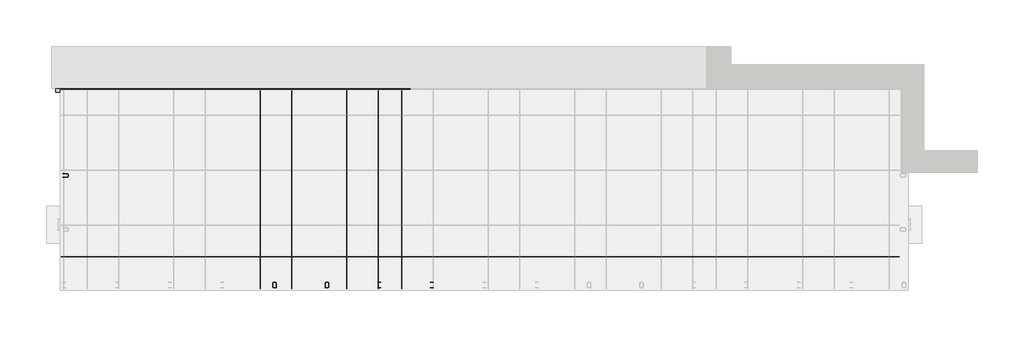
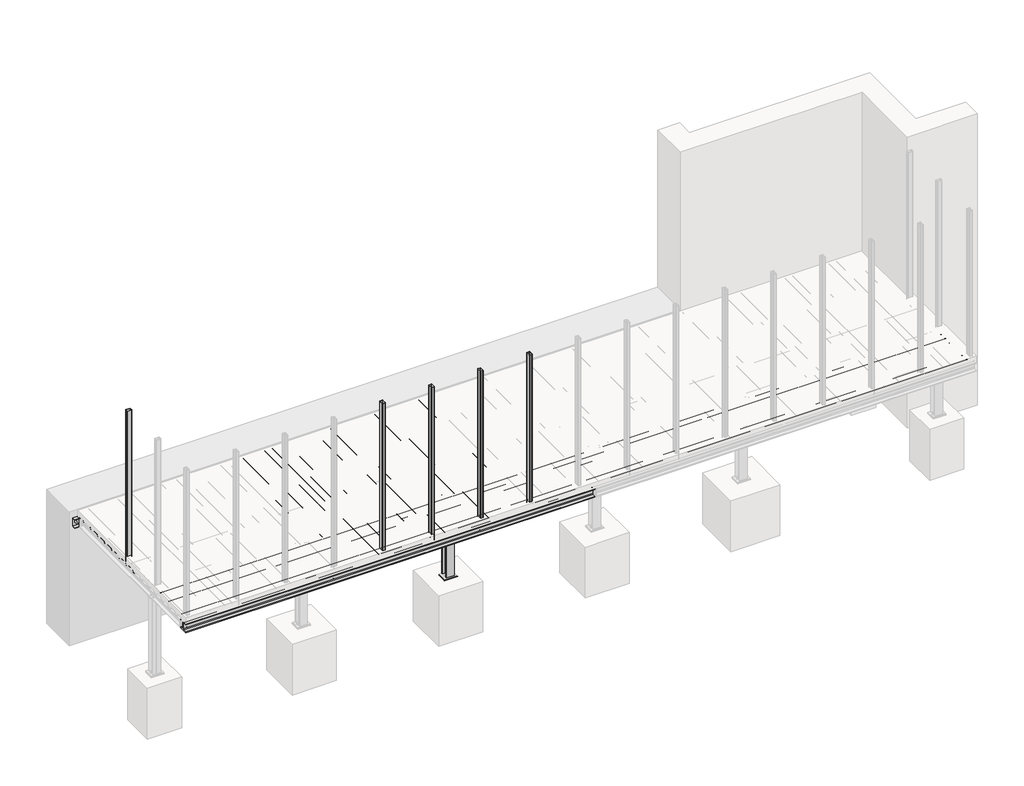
# One storey, part 2 of 36: 42 beams, 6 columns, 1 plate.
"""IFC4 building model written with IfcOpenShell, lengths in millimetres."""

from ifc_helpers import new_model, si_unit, point, frame, frame_2d, origin, place, context, project, spatial, polyline, circle_curve, trimmed, segment, composite_curve, outline, extrude, faceted_brep, element, save

model = new_model("IFC4")

# Units and contexts
model_context = context("Model", 3, world=origin())
ifc_project = project(units=[si_unit("LENGTHUNIT", "METRE", prefix="MILLI")], contexts=[model_context])

# Site, building, storey
site = spatial("IfcSite", under=ifc_project)
building = spatial("IfcBuilding", under=site)
storey = spatial("IfcBuildingStorey", under=building, Name="Základy", Elevation=-1200.0)

# Beams
placement = place(None, origin())
element("IfcBeam", 1, ObjectType="D8", at=placement, inside=storey, context=model_context, shape_type="SweptSolid", body=[
    extrude(outline(composite_curve([segment(trimmed(circle_curve(frame_2d((949.9975821, -57.0)), 4.0), [point((945.9975821, -57.0))], [point((953.9975821, -57.0))], False, "CARTESIAN"), True, "CONTINUOUS"), segment(trimmed(circle_curve(frame_2d((949.9975821, -57.0)), 4.0), [point((953.9975821, -57.0))], [point((945.9975821, -57.0))], False, "CARTESIAN"), True, "CONTINUOUS")], self_intersect=False)), frame((-15.0, 0.0, 0.0), z_axis=(1.0, 0.0, 0.0), x_axis=(0.0, 1.0, 0.0)), (0.0, 0.0, 1.0), 15985.0),
])
element("IfcBeam", 2, ObjectType="D8", at=placement, inside=storey, context=model_context, shape_type="SweptSolid", body=[
    extrude(outline(composite_curve([segment(trimmed(circle_curve(frame_2d((799.9975821, -57.0)), 4.0), [point((795.9975821, -57.0))], [point((803.9975821, -57.0))], False, "CARTESIAN"), True, "CONTINUOUS"), segment(trimmed(circle_curve(frame_2d((799.9975821, -57.0)), 4.0), [point((803.9975821, -57.0))], [point((795.9975821, -57.0))], False, "CARTESIAN"), True, "CONTINUOUS")], self_intersect=False)), frame((-15.0, 0.0, 0.0), z_axis=(1.0, 0.0, 0.0), x_axis=(0.0, 1.0, 0.0)), (0.0, 0.0, 1.0), 15985.0),
])
element("IfcBeam", 3, ObjectType="D8", at=placement, inside=storey, context=model_context, shape_type="SweptSolid", body=[
    extrude(outline(composite_curve([segment(trimmed(circle_curve(frame_2d((649.9975821, -57.0)), 4.0), [point((645.9975821, -57.0))], [point((653.9975821, -57.0))], False, "CARTESIAN"), True, "CONTINUOUS"), segment(trimmed(circle_curve(frame_2d((649.9975821, -57.0)), 4.0), [point((653.9975821, -57.0))], [point((645.9975821, -57.0))], False, "CARTESIAN"), True, "CONTINUOUS")], self_intersect=False)), frame((-15.0, 0.0, 0.0), z_axis=(1.0, 0.0, 0.0), x_axis=(0.0, 1.0, 0.0)), (0.0, 0.0, 1.0), 15985.0),
])
element("IfcBeam", 4, ObjectType="D8", at=placement, inside=storey, context=model_context, shape_type="SweptSolid", body=[
    extrude(outline(composite_curve([segment(trimmed(circle_curve(frame_2d((499.9975821, -57.0)), 4.0), [point((495.9975821, -57.0))], [point((503.9975821, -57.0))], False, "CARTESIAN"), True, "CONTINUOUS"), segment(trimmed(circle_curve(frame_2d((499.9975821, -57.0)), 4.0), [point((503.9975821, -57.0))], [point((495.9975821, -57.0))], False, "CARTESIAN"), True, "CONTINUOUS")], self_intersect=False)), frame((-15.0, 0.0, 0.0), z_axis=(1.0, 0.0, 0.0), x_axis=(0.0, 1.0, 0.0)), (0.0, 0.0, 1.0), 15985.0),
])
element("IfcBeam", 5, ObjectType="D8", at=placement, inside=storey, context=model_context, shape_type="SweptSolid", body=[
    extrude(outline(composite_curve([segment(trimmed(circle_curve(frame_2d((349.9975821, -57.0)), 4.0), [point((345.9975821, -57.0))], [point((353.9975821, -57.0))], False, "CARTESIAN"), True, "CONTINUOUS"), segment(trimmed(circle_curve(frame_2d((349.9975821, -57.0)), 4.0), [point((353.9975821, -57.0))], [point((345.9975821, -57.0))], False, "CARTESIAN"), True, "CONTINUOUS")], self_intersect=False)), frame((-15.0, 0.0, 0.0), z_axis=(1.0, 0.0, 0.0), x_axis=(0.0, 1.0, 0.0)), (0.0, 0.0, 1.0), 15985.0),
])
element("IfcBeam", 6, ObjectType="D8", at=placement, inside=storey, context=model_context, shape_type="SweptSolid", body=[
    extrude(outline(composite_curve([segment(trimmed(circle_curve(frame_2d((199.9975821, -57.0)), 4.0), [point((195.9975821, -57.0))], [point((203.9975821, -57.0))], False, "CARTESIAN"), True, "CONTINUOUS"), segment(trimmed(circle_curve(frame_2d((199.9975821, -57.0)), 4.0), [point((203.9975821, -57.0))], [point((195.9975821, -57.0))], False, "CARTESIAN"), True, "CONTINUOUS")], self_intersect=False)), frame((-15.0, 0.0, 0.0), z_axis=(1.0, 0.0, 0.0), x_axis=(0.0, 1.0, 0.0)), (0.0, 0.0, 1.0), 15985.0),
])
element("IfcBeam", 7, ObjectType="D8", at=placement, inside=storey, context=model_context, shape_type="SweptSolid", body=[
    extrude(outline(composite_curve([segment(trimmed(circle_curve(frame_2d((49.9975821, -57.0)), 4.0), [point((45.9975821, -57.0))], [point((53.9975821, -57.0))], False, "CARTESIAN"), True, "CONTINUOUS"), segment(trimmed(circle_curve(frame_2d((49.9975821, -57.0)), 4.0), [point((53.9975821, -57.0))], [point((45.9975821, -57.0))], False, "CARTESIAN"), True, "CONTINUOUS")], self_intersect=False)), frame((-15.0, 0.0, 0.0), z_axis=(1.0, 0.0, 0.0), x_axis=(0.0, 1.0, 0.0)), (0.0, 0.0, 1.0), 15985.0),
])
element("IfcBeam", 8, ObjectType="D8", at=placement, inside=storey, context=model_context, shape_type="SweptSolid", body=[
    extrude(outline(composite_curve([segment(trimmed(circle_curve(frame_2d((-49.0, 3177.5)), 4.0), [point((-49.0, 3173.5))], [point((-49.0, 3181.5))], False, "CARTESIAN"), True, "CONTINUOUS"), segment(trimmed(circle_curve(frame_2d((-49.0, 3177.5)), 4.0), [point((-49.0, 3181.5))], [point((-49.0, 3173.5))], False, "CARTESIAN"), True, "CONTINUOUS")], self_intersect=False)), frame((0.0, 35.0, 0.0), z_axis=(0.0, 1.0, 0.0), x_axis=(0.0, 0.0, 1.0)), (0.0, 0.0, 1.0), 3780.0),
])
element("IfcBeam", 9, ObjectType="D8", at=placement, inside=storey, context=model_context, shape_type="SweptSolid", body=[
    extrude(outline(composite_curve([segment(trimmed(circle_curve(frame_2d((-49.0, 3327.5)), 4.0), [point((-49.0, 3323.5))], [point((-49.0, 3331.5))], False, "CARTESIAN"), True, "CONTINUOUS"), segment(trimmed(circle_curve(frame_2d((-49.0, 3327.5)), 4.0), [point((-49.0, 3331.5))], [point((-49.0, 3323.5))], False, "CARTESIAN"), True, "CONTINUOUS")], self_intersect=False)), frame((0.0, 35.0, 0.0), z_axis=(0.0, 1.0, 0.0), x_axis=(0.0, 0.0, 1.0)), (0.0, 0.0, 1.0), 3780.0),
])
element("IfcBeam", 10, ObjectType="D8", at=placement, inside=storey, context=model_context, shape_type="SweptSolid", body=[
    extrude(outline(composite_curve([segment(trimmed(circle_curve(frame_2d((-49.0, 3477.5)), 4.0), [point((-49.0, 3473.5))], [point((-49.0, 3481.5))], False, "CARTESIAN"), True, "CONTINUOUS"), segment(trimmed(circle_curve(frame_2d((-49.0, 3477.5)), 4.0), [point((-49.0, 3481.5))], [point((-49.0, 3473.5))], False, "CARTESIAN"), True, "CONTINUOUS")], self_intersect=False)), frame((0.0, 35.0, 0.0), z_axis=(0.0, 1.0, 0.0), x_axis=(0.0, 0.0, 1.0)), (0.0, 0.0, 1.0), 3780.0),
])
element("IfcBeam", 11, ObjectType="D8", at=placement, inside=storey, context=model_context, shape_type="SweptSolid", body=[
    extrude(outline(composite_curve([segment(trimmed(circle_curve(frame_2d((-49.0, 3627.5)), 4.0), [point((-49.0, 3623.5))], [point((-49.0, 3631.5))], False, "CARTESIAN"), True, "CONTINUOUS"), segment(trimmed(circle_curve(frame_2d((-49.0, 3627.5)), 4.0), [point((-49.0, 3631.5))], [point((-49.0, 3623.5))], False, "CARTESIAN"), True, "CONTINUOUS")], self_intersect=False)), frame((0.0, 35.0, 0.0), z_axis=(0.0, 1.0, 0.0), x_axis=(0.0, 0.0, 1.0)), (0.0, 0.0, 1.0), 3780.0),
])
element("IfcBeam", 12, ObjectType="D8", at=placement, inside=storey, context=model_context, shape_type="SweptSolid", body=[
    extrude(outline(composite_curve([segment(trimmed(circle_curve(frame_2d((-49.0, 3777.5)), 4.0), [point((-49.0, 3773.5))], [point((-49.0, 3781.5))], False, "CARTESIAN"), True, "CONTINUOUS"), segment(trimmed(circle_curve(frame_2d((-49.0, 3777.5)), 4.0), [point((-49.0, 3781.5))], [point((-49.0, 3773.5))], False, "CARTESIAN"), True, "CONTINUOUS")], self_intersect=False)), frame((0.0, 35.0, 0.0), z_axis=(0.0, 1.0, 0.0), x_axis=(0.0, 0.0, 1.0)), (0.0, 0.0, 1.0), 3780.0),
])
element("IfcBeam", 13, ObjectType="D8", at=placement, inside=storey, context=model_context, shape_type="SweptSolid", body=[
    extrude(outline(composite_curve([segment(trimmed(circle_curve(frame_2d((-49.0, 3927.5)), 4.0), [point((-49.0, 3923.5))], [point((-49.0, 3931.5))], False, "CARTESIAN"), True, "CONTINUOUS"), segment(trimmed(circle_curve(frame_2d((-49.0, 3927.5)), 4.0), [point((-49.0, 3931.5))], [point((-49.0, 3923.5))], False, "CARTESIAN"), True, "CONTINUOUS")], self_intersect=False)), frame((0.0, 35.0, 0.0), z_axis=(0.0, 1.0, 0.0), x_axis=(0.0, 0.0, 1.0)), (0.0, 0.0, 1.0), 3780.0),
])
element("IfcBeam", 14, ObjectType="D8", at=placement, inside=storey, context=model_context, shape_type="SweptSolid", body=[
    extrude(outline(composite_curve([segment(trimmed(circle_curve(frame_2d((-49.0, 4077.5)), 4.0), [point((-49.0, 4073.5))], [point((-49.0, 4081.5))], False, "CARTESIAN"), True, "CONTINUOUS"), segment(trimmed(circle_curve(frame_2d((-49.0, 4077.5)), 4.0), [point((-49.0, 4081.5))], [point((-49.0, 4073.5))], False, "CARTESIAN"), True, "CONTINUOUS")], self_intersect=False)), frame((0.0, 35.0, 0.0), z_axis=(0.0, 1.0, 0.0), x_axis=(0.0, 0.0, 1.0)), (0.0, 0.0, 1.0), 3780.0),
])
element("IfcBeam", 15, ObjectType="D8", at=placement, inside=storey, context=model_context, shape_type="SweptSolid", body=[
    extrude(outline(composite_curve([segment(trimmed(circle_curve(frame_2d((-49.0, 4227.5)), 4.0), [point((-49.0, 4223.5))], [point((-49.0, 4231.5))], False, "CARTESIAN"), True, "CONTINUOUS"), segment(trimmed(circle_curve(frame_2d((-49.0, 4227.5)), 4.0), [point((-49.0, 4231.5))], [point((-49.0, 4223.5))], False, "CARTESIAN"), True, "CONTINUOUS")], self_intersect=False)), frame((0.0, 35.0, 0.0), z_axis=(0.0, 1.0, 0.0), x_axis=(0.0, 0.0, 1.0)), (0.0, 0.0, 1.0), 3780.0),
])
element("IfcBeam", 16, ObjectType="D8", at=placement, inside=storey, context=model_context, shape_type="SweptSolid", body=[
    extrude(outline(composite_curve([segment(trimmed(circle_curve(frame_2d((-49.0, 4377.5)), 4.0), [point((-49.0, 4373.5))], [point((-49.0, 4381.5))], False, "CARTESIAN"), True, "CONTINUOUS"), segment(trimmed(circle_curve(frame_2d((-49.0, 4377.5)), 4.0), [point((-49.0, 4381.5))], [point((-49.0, 4373.5))], False, "CARTESIAN"), True, "CONTINUOUS")], self_intersect=False)), frame((0.0, 35.0, 0.0), z_axis=(0.0, 1.0, 0.0), x_axis=(0.0, 0.0, 1.0)), (0.0, 0.0, 1.0), 3780.0),
])
element("IfcBeam", 17, ObjectType="D8", at=placement, inside=storey, context=model_context, shape_type="SweptSolid", body=[
    extrude(outline(composite_curve([segment(trimmed(circle_curve(frame_2d((-49.0, 4527.5)), 4.0), [point((-49.0, 4523.5))], [point((-49.0, 4531.5))], False, "CARTESIAN"), True, "CONTINUOUS"), segment(trimmed(circle_curve(frame_2d((-49.0, 4527.5)), 4.0), [point((-49.0, 4531.5))], [point((-49.0, 4523.5))], False, "CARTESIAN"), True, "CONTINUOUS")], self_intersect=False)), frame((0.0, 35.0, 0.0), z_axis=(0.0, 1.0, 0.0), x_axis=(0.0, 0.0, 1.0)), (0.0, 0.0, 1.0), 3780.0),
])
element("IfcBeam", 18, ObjectType="D8", at=placement, inside=storey, context=model_context, shape_type="SweptSolid", body=[
    extrude(outline(composite_curve([segment(trimmed(circle_curve(frame_2d((-49.0, 4677.5)), 4.0), [point((-49.0, 4673.5))], [point((-49.0, 4681.5))], False, "CARTESIAN"), True, "CONTINUOUS"), segment(trimmed(circle_curve(frame_2d((-49.0, 4677.5)), 4.0), [point((-49.0, 4681.5))], [point((-49.0, 4673.5))], False, "CARTESIAN"), True, "CONTINUOUS")], self_intersect=False)), frame((0.0, 35.0, 0.0), z_axis=(0.0, 1.0, 0.0), x_axis=(0.0, 0.0, 1.0)), (0.0, 0.0, 1.0), 3780.0),
])
element("IfcBeam", 19, ObjectType="D8", at=placement, inside=storey, context=model_context, shape_type="SweptSolid", body=[
    extrude(outline(composite_curve([segment(trimmed(circle_curve(frame_2d((-49.0, 4827.5)), 4.0), [point((-49.0, 4823.5))], [point((-49.0, 4831.5))], False, "CARTESIAN"), True, "CONTINUOUS"), segment(trimmed(circle_curve(frame_2d((-49.0, 4827.5)), 4.0), [point((-49.0, 4831.5))], [point((-49.0, 4823.5))], False, "CARTESIAN"), True, "CONTINUOUS")], self_intersect=False)), frame((0.0, 35.0, 0.0), z_axis=(0.0, 1.0, 0.0), x_axis=(0.0, 0.0, 1.0)), (0.0, 0.0, 1.0), 3780.0),
])
element("IfcBeam", 20, ObjectType="D8", at=placement, inside=storey, context=model_context, shape_type="SweptSolid", body=[
    extrude(outline(composite_curve([segment(trimmed(circle_curve(frame_2d((-49.0, 4977.5)), 4.0), [point((-49.0, 4973.5))], [point((-49.0, 4981.5))], False, "CARTESIAN"), True, "CONTINUOUS"), segment(trimmed(circle_curve(frame_2d((-49.0, 4977.5)), 4.0), [point((-49.0, 4981.5))], [point((-49.0, 4973.5))], False, "CARTESIAN"), True, "CONTINUOUS")], self_intersect=False)), frame((0.0, 35.0, 0.0), z_axis=(0.0, 1.0, 0.0), x_axis=(0.0, 0.0, 1.0)), (0.0, 0.0, 1.0), 3780.0),
])
element("IfcBeam", 21, ObjectType="D8", at=placement, inside=storey, context=model_context, shape_type="SweptSolid", body=[
    extrude(outline(composite_curve([segment(trimmed(circle_curve(frame_2d((-49.0, 5127.5)), 4.0), [point((-49.0, 5123.5))], [point((-49.0, 5131.5))], False, "CARTESIAN"), True, "CONTINUOUS"), segment(trimmed(circle_curve(frame_2d((-49.0, 5127.5)), 4.0), [point((-49.0, 5131.5))], [point((-49.0, 5123.5))], False, "CARTESIAN"), True, "CONTINUOUS")], self_intersect=False)), frame((0.0, 35.0, 0.0), z_axis=(0.0, 1.0, 0.0), x_axis=(0.0, 0.0, 1.0)), (0.0, 0.0, 1.0), 3780.0),
])
element("IfcBeam", 22, ObjectType="D8", at=placement, inside=storey, context=model_context, shape_type="SweptSolid", body=[
    extrude(outline(composite_curve([segment(trimmed(circle_curve(frame_2d((-49.0, 5277.5)), 4.0), [point((-49.0, 5273.5))], [point((-49.0, 5281.5))], False, "CARTESIAN"), True, "CONTINUOUS"), segment(trimmed(circle_curve(frame_2d((-49.0, 5277.5)), 4.0), [point((-49.0, 5281.5))], [point((-49.0, 5273.5))], False, "CARTESIAN"), True, "CONTINUOUS")], self_intersect=False)), frame((0.0, 35.0, 0.0), z_axis=(0.0, 1.0, 0.0), x_axis=(0.0, 0.0, 1.0)), (0.0, 0.0, 1.0), 3780.0),
])
element("IfcBeam", 23, ObjectType="D8", at=placement, inside=storey, context=model_context, shape_type="SweptSolid", body=[
    extrude(outline(composite_curve([segment(trimmed(circle_curve(frame_2d((-49.0, 5427.5)), 4.0), [point((-49.0, 5423.5))], [point((-49.0, 5431.5))], False, "CARTESIAN"), True, "CONTINUOUS"), segment(trimmed(circle_curve(frame_2d((-49.0, 5427.5)), 4.0), [point((-49.0, 5431.5))], [point((-49.0, 5423.5))], False, "CARTESIAN"), True, "CONTINUOUS")], self_intersect=False)), frame((0.0, 35.0, 0.0), z_axis=(0.0, 1.0, 0.0), x_axis=(0.0, 0.0, 1.0)), (0.0, 0.0, 1.0), 3780.0),
])
element("IfcBeam", 24, ObjectType="D8", at=placement, inside=storey, context=model_context, shape_type="SweptSolid", body=[
    extrude(outline(composite_curve([segment(trimmed(circle_curve(frame_2d((-49.0, 5577.5)), 4.0), [point((-49.0, 5573.5))], [point((-49.0, 5581.5))], False, "CARTESIAN"), True, "CONTINUOUS"), segment(trimmed(circle_curve(frame_2d((-49.0, 5577.5)), 4.0), [point((-49.0, 5581.5))], [point((-49.0, 5573.5))], False, "CARTESIAN"), True, "CONTINUOUS")], self_intersect=False)), frame((0.0, 35.0, 0.0), z_axis=(0.0, 1.0, 0.0), x_axis=(0.0, 0.0, 1.0)), (0.0, 0.0, 1.0), 3780.0),
])
element("IfcBeam", 25, ObjectType="D8", at=placement, inside=storey, context=model_context, shape_type="SweptSolid", body=[
    extrude(outline(composite_curve([segment(trimmed(circle_curve(frame_2d((-49.0, 5727.5)), 4.0), [point((-49.0, 5723.5))], [point((-49.0, 5731.5))], False, "CARTESIAN"), True, "CONTINUOUS"), segment(trimmed(circle_curve(frame_2d((-49.0, 5727.5)), 4.0), [point((-49.0, 5731.5))], [point((-49.0, 5723.5))], False, "CARTESIAN"), True, "CONTINUOUS")], self_intersect=False)), frame((0.0, 35.0, 0.0), z_axis=(0.0, 1.0, 0.0), x_axis=(0.0, 0.0, 1.0)), (0.0, 0.0, 1.0), 3780.0),
])
element("IfcBeam", 26, ObjectType="D8", at=placement, inside=storey, context=model_context, shape_type="SweptSolid", body=[
    extrude(outline(composite_curve([segment(trimmed(circle_curve(frame_2d((-49.0, 5877.5)), 4.0), [point((-49.0, 5873.5))], [point((-49.0, 5881.5))], False, "CARTESIAN"), True, "CONTINUOUS"), segment(trimmed(circle_curve(frame_2d((-49.0, 5877.5)), 4.0), [point((-49.0, 5881.5))], [point((-49.0, 5873.5))], False, "CARTESIAN"), True, "CONTINUOUS")], self_intersect=False)), frame((0.0, 35.0, 0.0), z_axis=(0.0, 1.0, 0.0), x_axis=(0.0, 0.0, 1.0)), (0.0, 0.0, 1.0), 3780.0),
])
element("IfcBeam", 27, ObjectType="D8", at=placement, inside=storey, context=model_context, shape_type="SweptSolid", body=[
    extrude(outline(composite_curve([segment(trimmed(circle_curve(frame_2d((-49.0, 6027.5)), 4.0), [point((-49.0, 6023.5))], [point((-49.0, 6031.5))], False, "CARTESIAN"), True, "CONTINUOUS"), segment(trimmed(circle_curve(frame_2d((-49.0, 6027.5)), 4.0), [point((-49.0, 6031.5))], [point((-49.0, 6023.5))], False, "CARTESIAN"), True, "CONTINUOUS")], self_intersect=False)), frame((0.0, 35.0, 0.0), z_axis=(0.0, 1.0, 0.0), x_axis=(0.0, 0.0, 1.0)), (0.0, 0.0, 1.0), 3780.0),
])
element("IfcBeam", 28, ObjectType="D8", at=placement, inside=storey, context=model_context, shape_type="SweptSolid", body=[
    extrude(outline(composite_curve([segment(trimmed(circle_curve(frame_2d((-49.0, 6177.5)), 4.0), [point((-49.0, 6173.5))], [point((-49.0, 6181.5))], False, "CARTESIAN"), True, "CONTINUOUS"), segment(trimmed(circle_curve(frame_2d((-49.0, 6177.5)), 4.0), [point((-49.0, 6181.5))], [point((-49.0, 6173.5))], False, "CARTESIAN"), True, "CONTINUOUS")], self_intersect=False)), frame((0.0, 35.0, 0.0), z_axis=(0.0, 1.0, 0.0), x_axis=(0.0, 0.0, 1.0)), (0.0, 0.0, 1.0), 3780.0),
])
element("IfcBeam", 29, ObjectType="D8", at=placement, inside=storey, context=model_context, shape_type="SweptSolid", body=[
    extrude(outline(composite_curve([segment(trimmed(circle_curve(frame_2d((-49.0, 6327.5)), 4.0), [point((-49.0, 6323.5))], [point((-49.0, 6331.5))], False, "CARTESIAN"), True, "CONTINUOUS"), segment(trimmed(circle_curve(frame_2d((-49.0, 6327.5)), 4.0), [point((-49.0, 6331.5))], [point((-49.0, 6323.5))], False, "CARTESIAN"), True, "CONTINUOUS")], self_intersect=False)), frame((0.0, 35.0, 0.0), z_axis=(0.0, 1.0, 0.0), x_axis=(0.0, 0.0, 1.0)), (0.0, 0.0, 1.0), 3780.0),
])
element("IfcBeam", 30, ObjectType="D8", at=placement, inside=storey, context=model_context, shape_type="SweptSolid", body=[
    extrude(outline(composite_curve([segment(trimmed(circle_curve(frame_2d((-49.0, 6477.5)), 4.0), [point((-49.0, 6473.5))], [point((-49.0, 6481.5))], False, "CARTESIAN"), True, "CONTINUOUS"), segment(trimmed(circle_curve(frame_2d((-49.0, 6477.5)), 4.0), [point((-49.0, 6481.5))], [point((-49.0, 6473.5))], False, "CARTESIAN"), True, "CONTINUOUS")], self_intersect=False)), frame((0.0, 35.0, 0.0), z_axis=(0.0, 1.0, 0.0), x_axis=(0.0, 0.0, 1.0)), (0.0, 0.0, 1.0), 3780.0),
])
element("IfcBeam", 31, ObjectType="D8", at=placement, inside=storey, context=model_context, shape_type="SweptSolid", body=[
    extrude(outline(composite_curve([segment(trimmed(circle_curve(frame_2d((-49.0, 6627.5)), 4.0), [point((-49.0, 6623.5))], [point((-49.0, 6631.5))], False, "CARTESIAN"), True, "CONTINUOUS"), segment(trimmed(circle_curve(frame_2d((-49.0, 6627.5)), 4.0), [point((-49.0, 6631.5))], [point((-49.0, 6623.5))], False, "CARTESIAN"), True, "CONTINUOUS")], self_intersect=False)), frame((0.0, 35.0, 0.0), z_axis=(0.0, 1.0, 0.0), x_axis=(0.0, 0.0, 1.0)), (0.0, 0.0, 1.0), 3780.0),
])
element("IfcBeam", 32, ObjectType="D8", at=placement, inside=storey, context=model_context, shape_type="SweptSolid", body=[
    extrude(outline(composite_curve([segment(trimmed(circle_curve(frame_2d((-49.0, 6777.5)), 4.0), [point((-49.0, 6773.5))], [point((-49.0, 6781.5))], False, "CARTESIAN"), True, "CONTINUOUS"), segment(trimmed(circle_curve(frame_2d((-49.0, 6777.5)), 4.0), [point((-49.0, 6781.5))], [point((-49.0, 6773.5))], False, "CARTESIAN"), True, "CONTINUOUS")], self_intersect=False)), frame((0.0, 35.0, 0.0), z_axis=(0.0, 1.0, 0.0), x_axis=(0.0, 0.0, 1.0)), (0.0, 0.0, 1.0), 3780.0),
])
element("IfcBeam", 33, ObjectType="D8", at=placement, inside=storey, context=model_context, shape_type="SweptSolid", body=[
    extrude(outline(composite_curve([segment(trimmed(circle_curve(frame_2d((-49.0, 6927.5)), 4.0), [point((-49.0, 6923.5))], [point((-49.0, 6931.5))], False, "CARTESIAN"), True, "CONTINUOUS"), segment(trimmed(circle_curve(frame_2d((-49.0, 6927.5)), 4.0), [point((-49.0, 6931.5))], [point((-49.0, 6923.5))], False, "CARTESIAN"), True, "CONTINUOUS")], self_intersect=False)), frame((0.0, 35.0, 0.0), z_axis=(0.0, 1.0, 0.0), x_axis=(0.0, 0.0, 1.0)), (0.0, 0.0, 1.0), 3780.0),
])
element("IfcBeam", 34, ObjectType="HEA120", at=placement, inside=storey, context=model_context, shape_type="SweptSolid", body=[
    extrude(outline(composite_curve([segment(polyline([(1200.0, -193.0), (1320.0, -193.0), (1320.0, -201.0), (1274.5, -201.0)]), True, "CONTINUOUS"), segment(trimmed(circle_curve(frame_2d((1274.5, -213.0)), 12.0), [point((1274.5, -201.0))], [point((1262.5, -213.0))], True, "CARTESIAN"), True, "CONTINUOUS"), segment(polyline([(1262.5, -213.0), (1262.5, -287.0)]), True, "CONTINUOUS"), segment(trimmed(circle_curve(frame_2d((1274.5, -287.0)), 12.0), [point((1262.5, -287.0))], [point((1274.5, -299.0))], True, "CARTESIAN"), True, "CONTINUOUS"), segment(polyline([(1274.5, -299.0), (1320.0, -299.0), (1320.0, -307.0), (1200.0, -307.0), (1200.0, -299.0), (1245.5, -299.0)]), True, "CONTINUOUS"), segment(trimmed(circle_curve(frame_2d((1245.5, -287.0)), 12.0), [point((1245.5, -299.0))], [point((1257.5, -287.0))], True, "CARTESIAN"), True, "CONTINUOUS"), segment(polyline([(1257.5, -287.0), (1257.5, -213.0)]), True, "CONTINUOUS"), segment(trimmed(circle_curve(frame_2d((1245.5, -213.0)), 12.0), [point((1257.5, -213.0))], [point((1245.5, -201.0))], True, "CARTESIAN"), True, "CONTINUOUS"), segment(polyline([(1245.5, -201.0), (1200.0, -201.0), (1200.0, -193.0)]), True, "CONTINUOUS")], self_intersect=False)), frame((3160.0, 0.0, 0.0), z_axis=(1.0, 0.0, 0.0), x_axis=(0.0, 1.0, 0.0)), (0.0, 0.0, 1.0), 2780.0),
])
element("IfcBeam", 35, ObjectType="HEB180", at=placement, inside=storey, context=model_context, shape_type="SweptSolid", body=[
    extrude(outline(composite_curve([segment(polyline([(-340.0, 6140.0), (-326.0, 6140.0), (-326.0, 6069.25)]), True, "CONTINUOUS"), segment(trimmed(circle_curve(frame_2d((-311.0, 6069.25)), 15.0), [point((-326.0, 6069.25))], [point((-311.0, 6054.25))], True, "CARTESIAN"), True, "CONTINUOUS"), segment(polyline([(-311.0, 6054.25), (-189.0, 6054.25)]), True, "CONTINUOUS"), segment(trimmed(circle_curve(frame_2d((-189.0, 6069.25)), 15.0), [point((-189.0, 6054.25))], [point((-174.0, 6069.25))], True, "CARTESIAN"), True, "CONTINUOUS"), segment(polyline([(-174.0, 6069.25), (-174.0, 6140.0), (-160.0, 6140.0), (-160.0, 5960.0), (-174.0, 5960.0), (-174.0, 6030.75)]), True, "CONTINUOUS"), segment(trimmed(circle_curve(frame_2d((-189.0, 6030.75)), 15.0), [point((-174.0, 6030.75))], [point((-189.0, 6045.75))], True, "CARTESIAN"), True, "CONTINUOUS"), segment(polyline([(-189.0, 6045.75), (-311.0, 6045.75)]), True, "CONTINUOUS"), segment(trimmed(circle_curve(frame_2d((-311.0, 6030.75)), 15.0), [point((-311.0, 6045.75))], [point((-326.0, 6030.75))], True, "CARTESIAN"), True, "CONTINUOUS"), segment(polyline([(-326.0, 6030.75), (-326.0, 5960.0), (-340.0, 5960.0), (-340.0, 6140.0)]), True, "CONTINUOUS")], self_intersect=False)), frame((0.0, 210.0, 0.0), z_axis=(0.0, 1.0, 0.0), x_axis=(0.0, 0.0, 1.0)), (0.0, 0.0, 1.0), 3557.0),
])
element("IfcBeam", 36, ObjectType="HEB180", at=placement, inside=storey, context=model_context, shape_type="SweptSolid", body=[
    extrude(outline(composite_curve([segment(polyline([(10.0, -160.0), (190.0, -160.0), (190.0, -174.0), (119.25, -174.0)]), True, "CONTINUOUS"), segment(trimmed(circle_curve(frame_2d((119.25, -189.0)), 15.0), [point((119.25, -174.0))], [point((104.25, -189.0))], True, "CARTESIAN"), True, "CONTINUOUS"), segment(polyline([(104.25, -189.0), (104.25, -311.0)]), True, "CONTINUOUS"), segment(trimmed(circle_curve(frame_2d((119.25, -311.0)), 15.0), [point((104.25, -311.0))], [point((119.25, -326.0))], True, "CARTESIAN"), True, "CONTINUOUS"), segment(polyline([(119.25, -326.0), (190.0, -326.0), (190.0, -340.0), (10.0, -340.0), (10.0, -326.0), (80.75, -326.0)]), True, "CONTINUOUS"), segment(trimmed(circle_curve(frame_2d((80.75, -311.0)), 15.0), [point((80.75, -326.0))], [point((95.75, -311.0))], True, "CARTESIAN"), True, "CONTINUOUS"), segment(polyline([(95.75, -311.0), (95.75, -189.0)]), True, "CONTINUOUS"), segment(trimmed(circle_curve(frame_2d((80.75, -189.0)), 15.0), [point((95.75, -189.0))], [point((80.75, -174.0))], True, "CARTESIAN"), True, "CONTINUOUS"), segment(polyline([(80.75, -174.0), (10.0, -174.0), (10.0, -160.0)]), True, "CONTINUOUS")], self_intersect=False)), frame((-40.0, 0.0, 0.0), z_axis=(1.0, 0.0, 0.0), x_axis=(0.0, 1.0, 0.0)), (0.0, 0.0, 1.0), 8380.0),
])
element("IfcBeam", 37, ObjectType="TR50/250", at=placement, inside=storey, context=model_context, shape_type="SweptSolid", body=[
    extrude(outline(polyline([(3802.7875602, -160.0099992), (3772.2875602, -111.5000008), (3637.6975638, -111.5000008), (3607.1975638, -160.0000008), (3552.7875754, -160.0000008), (3522.2875754, -111.5000008), (3387.6975715, -111.5000008), (3357.1975715, -160.0000008), (3302.7875697, -160.0000008), (3272.2875716, -111.5000008), (3137.6975638, -111.5000008), (3107.1975638, -160.0000008), (3052.7875602, -160.0000008), (3022.2875602, -111.5000008), (2887.6975638, -111.5000008), (2857.1975638, -160.0000008), (2802.7875602, -160.0000008), (2790.7375724, -139.4300002), (2803.1975638, -159.2500008), (2856.7875602, -159.2500008), (2887.2875602, -110.7500008), (3022.6975638, -110.7500008), (3053.1975638, -159.2500008), (3106.7875754, -159.2500008), (3137.2875754, -110.7500008), (3272.6975715, -110.7500008), (3303.1975695, -159.2500008), (3356.7875716, -159.2500008), (3387.2875678, -110.7500008), (3522.6975638, -110.7500008), (3553.1975638, -159.2500008), (3606.7875602, -159.2500008), (3637.2875602, -110.7500008), (3772.6975638, -110.7500008), (3803.1975638, -159.2500008), (3839.9975821, -160.0000008), (3802.7875602, -160.0099992)])), frame((-40.0, 0.0, 0.0), z_axis=(1.0, 0.0, 0.0), x_axis=(0.0, 1.0, 0.0)), (0.0, 0.0, 1.0), 3180.0),
])
element("IfcBeam", 38, ObjectType="TR50/250", at=placement, inside=storey, context=model_context, shape_type="SweptSolid", body=[
    extrude(outline(polyline([(2802.7875602, -160.0099992), (2772.2875602, -111.5000008), (2637.6975638, -111.5000008), (2607.1975638, -160.0000008), (2552.7875754, -160.0000008), (2522.2875754, -111.5000008), (2387.6975715, -111.5000008), (2357.1975715, -160.0000008), (2302.7875697, -160.0000008), (2272.2875716, -111.5000008), (2137.6975638, -111.5000008), (2107.1975638, -160.0000008), (2052.7875602, -160.0000008), (2022.2875602, -111.5000008), (1887.6975638, -111.5000008), (1857.1975638, -160.0000008), (1802.7875602, -160.0000008), (1790.7375724, -139.4300002), (1803.1975638, -159.2500008), (1856.7875602, -159.2500008), (1887.2875602, -110.7500008), (2022.6975638, -110.7500008), (2053.1975638, -159.2500008), (2106.7875754, -159.2500008), (2137.2875754, -110.7500008), (2272.6975715, -110.7500008), (2303.1975695, -159.2500008), (2356.7875716, -159.2500008), (2387.2875678, -110.7500008), (2522.6975638, -110.7500008), (2553.1975638, -159.2500008), (2606.7875602, -159.2500008), (2637.2875602, -110.7500008), (2772.6975638, -110.7500008), (2803.1975638, -159.2500008), (2839.9975821, -160.0000008), (2802.7875602, -160.0099992)])), frame((-40.0, 0.0, 0.0), z_axis=(1.0, 0.0, 0.0), x_axis=(0.0, 1.0, 0.0)), (0.0, 0.0, 1.0), 3180.0),
])
element("IfcBeam", 39, ObjectType="TR50/250", at=placement, inside=storey, context=model_context, shape_type="SweptSolid", body=[
    extrude(outline(polyline([(1802.7875602, -160.0099992), (1772.2875602, -111.5000008), (1637.6975638, -111.5000008), (1607.1975638, -160.0000008), (1552.7875754, -160.0000008), (1522.2875754, -111.5000008), (1387.6975715, -111.5000008), (1357.1975715, -160.0000008), (1302.7875697, -160.0000008), (1272.2875716, -111.5000008), (1137.6975638, -111.5000008), (1107.1975638, -160.0000008), (1052.7875602, -160.0000008), (1022.2875602, -111.5000008), (887.6975638, -111.5000008), (857.1975638, -160.0000008), (802.7875602, -160.0000008), (790.7375724, -139.4300002), (803.1975638, -159.2500008), (856.7875602, -159.2500008), (887.2875602, -110.7500008), (1022.6975638, -110.7500008), (1053.1975638, -159.2500008), (1106.7875754, -159.2500008), (1137.2875754, -110.7500008), (1272.6975715, -110.7500008), (1303.1975695, -159.2500008), (1356.7875716, -159.2500008), (1387.2875678, -110.7500008), (1522.6975638, -110.7500008), (1553.1975638, -159.2500008), (1606.7875602, -159.2500008), (1637.2875602, -110.7500008), (1772.6975638, -110.7500008), (1803.1975638, -159.2500008), (1839.9975821, -160.0000008), (1802.7875602, -160.0099992)])), frame((2960.0, 0.0, 0.0), z_axis=(1.0, 0.0, 0.0), x_axis=(0.0, 1.0, 0.0)), (0.0, 0.0, 1.0), 3180.0),
])
element("IfcBeam", 40, ObjectType="TR50/250", at=placement, inside=storey, context=model_context, shape_type="SweptSolid", body=[
    extrude(outline(polyline([(802.7875602, -160.0099992), (772.2875602, -111.5000008), (637.6975638, -111.5000008), (607.1975638, -160.0000008), (552.7875754, -160.0000008), (522.2875754, -111.5000008), (387.6975715, -111.5000008), (357.1975715, -160.0000008), (302.7875697, -160.0000008), (272.2875716, -111.5000008), (160.0, -111.5000008), (160.0, -110.7500008), (272.6975715, -110.7500008), (303.1975695, -159.2500008), (356.7875716, -159.2500008), (387.2875678, -110.7500008), (522.6975638, -110.7500008), (553.1975638, -159.2500008), (606.7875602, -159.2500008), (637.2875602, -110.7500008), (772.6975638, -110.7500008), (803.1975638, -159.2500008), (839.9975821, -160.0000008), (802.7875602, -160.0099992)])), frame((2960.0, 0.0, 0.0), z_axis=(1.0, 0.0, 0.0), x_axis=(0.0, 1.0, 0.0)), (0.0, 0.0, 1.0), 3180.0),
])
element("IfcBeam", 41, ObjectType="TR50/250", at=placement, inside=storey, context=model_context, shape_type="SweptSolid", body=[
    extrude(outline(polyline([(802.7875602, -160.0099992), (772.2875602, -111.5000008), (637.6975638, -111.5000008), (607.1975638, -160.0000008), (552.7875754, -160.0000008), (522.2875754, -111.5000008), (387.6975715, -111.5000008), (357.1975715, -160.0000008), (302.7875697, -160.0000008), (272.2875716, -111.5000008), (160.0, -111.5000008), (160.0, -110.7500008), (272.6975715, -110.7500008), (303.1975695, -159.2500008), (356.7875716, -159.2500008), (387.2875678, -110.7500008), (522.6975638, -110.7500008), (553.1975638, -159.2500008), (606.7875602, -159.2500008), (637.2875602, -110.7500008), (772.6975638, -110.7500008), (803.1975638, -159.2500008), (839.9975821, -160.0000008), (802.7875602, -160.0099992)])), frame((5960.0, 0.0, 0.0), z_axis=(1.0, 0.0, 0.0), x_axis=(0.0, 1.0, 0.0)), (0.0, 0.0, 1.0), 3180.0),
])
element("IfcBeam", 42, ObjectType="UPE180", at=placement, inside=storey, context=model_context, shape_type="SweptSolid", body=[
    extrude(outline(polyline([(3860.0, -160.0), (3860.0, -340.0), (3785.0, -340.0), (3785.0, -329.5), (3854.5, -329.5), (3854.5, -170.5), (3785.0, -170.5), (3785.0, -160.0), (3860.0, -160.0)])), frame((-125.0, 0.0, 0.0), z_axis=(1.0, 0.0, 0.0), x_axis=(0.0, 1.0, 0.0)), (0.0, 0.0, 1.0), 6765.0),
])

# Columns
element("IfcColumn", 43, ObjectType="RHS100*60*3.2", at=placement, inside=storey, context=model_context, shape_type="SweptSolid", body=[
    extrude(outline(composite_curve([segment(polyline([(6073.6, 60.0), (6026.4, 60.0)]), True, "CONTINUOUS"), segment(trimmed(circle_curve(frame_2d((6026.4, 66.4)), 6.4), [point((6026.4, 60.0))], [point((6020.0, 66.4))], False, "CARTESIAN"), True, "CONTINUOUS"), segment(polyline([(6020.0, 66.4), (6020.0, 153.6)]), True, "CONTINUOUS"), segment(trimmed(circle_curve(frame_2d((6026.4, 153.6)), 6.4), [point((6020.0, 153.6))], [point((6026.4, 160.0))], False, "CARTESIAN"), True, "CONTINUOUS"), segment(polyline([(6026.4, 160.0), (6073.6, 160.0)]), True, "CONTINUOUS"), segment(trimmed(circle_curve(frame_2d((6073.6, 153.6)), 6.4), [point((6073.6, 160.0))], [point((6080.0, 153.6))], False, "CARTESIAN"), True, "CONTINUOUS"), segment(polyline([(6080.0, 153.6), (6080.0, 66.4)]), True, "CONTINUOUS"), segment(trimmed(circle_curve(frame_2d((6073.6, 66.4)), 6.4), [point((6080.0, 66.4))], [point((6073.6, 60.0))], False, "CARTESIAN"), True, "CONTINUOUS")], self_intersect=False), holes=[composite_curve([segment(trimmed(circle_curve(frame_2d((6073.6, 66.4)), 3.2), [point((6073.6, 63.2))], [point((6076.8, 66.4))], True, "CARTESIAN"), True, "CONTINUOUS"), segment(polyline([(6076.8, 66.4), (6076.8, 153.6)]), True, "CONTINUOUS"), segment(trimmed(circle_curve(frame_2d((6073.6, 153.6)), 3.2), [point((6076.8, 153.6))], [point((6073.6, 156.8))], True, "CARTESIAN"), True, "CONTINUOUS"), segment(polyline([(6073.6, 156.8), (6026.4, 156.8)]), True, "CONTINUOUS"), segment(trimmed(circle_curve(frame_2d((6026.4, 153.6)), 3.2), [point((6026.4, 156.8))], [point((6023.2, 153.6))], True, "CARTESIAN"), True, "CONTINUOUS"), segment(polyline([(6023.2, 153.6), (6023.2, 66.4)]), True, "CONTINUOUS"), segment(trimmed(circle_curve(frame_2d((6026.4, 66.4)), 3.2), [point((6023.2, 66.4))], [point((6026.4, 63.2))], True, "CARTESIAN"), True, "CONTINUOUS"), segment(polyline([(6026.4, 63.2), (6073.6, 63.2)]), True, "CONTINUOUS")], self_intersect=False)]), frame((0.0, 0.0, -160.0), z_axis=(0.0, 0.0, 1.0), x_axis=(1.0, 0.0, 0.0)), (0.0, 0.0, 1.0), 3320.0),
])
element("IfcColumn", 44, ObjectType="RHS100*60*3.2", at=placement, inside=storey, context=model_context, shape_type="SweptSolid", body=[
    extrude(outline(composite_curve([segment(polyline([(5073.6, 60.0), (5026.4, 60.0)]), True, "CONTINUOUS"), segment(trimmed(circle_curve(frame_2d((5026.4, 66.4)), 6.4), [point((5026.4, 60.0))], [point((5020.0, 66.4))], False, "CARTESIAN"), True, "CONTINUOUS"), segment(polyline([(5020.0, 66.4), (5020.0, 153.6)]), True, "CONTINUOUS"), segment(trimmed(circle_curve(frame_2d((5026.4, 153.6)), 6.4), [point((5020.0, 153.6))], [point((5026.4, 160.0))], False, "CARTESIAN"), True, "CONTINUOUS"), segment(polyline([(5026.4, 160.0), (5073.6, 160.0)]), True, "CONTINUOUS"), segment(trimmed(circle_curve(frame_2d((5073.6, 153.6)), 6.4), [point((5073.6, 160.0))], [point((5080.0, 153.6))], False, "CARTESIAN"), True, "CONTINUOUS"), segment(polyline([(5080.0, 153.6), (5080.0, 66.4)]), True, "CONTINUOUS"), segment(trimmed(circle_curve(frame_2d((5073.6, 66.4)), 6.4), [point((5080.0, 66.4))], [point((5073.6, 60.0))], False, "CARTESIAN"), True, "CONTINUOUS")], self_intersect=False), holes=[composite_curve([segment(trimmed(circle_curve(frame_2d((5073.6, 66.4)), 3.2), [point((5073.6, 63.2))], [point((5076.8, 66.4))], True, "CARTESIAN"), True, "CONTINUOUS"), segment(polyline([(5076.8, 66.4), (5076.8, 153.6)]), True, "CONTINUOUS"), segment(trimmed(circle_curve(frame_2d((5073.6, 153.6)), 3.2), [point((5076.8, 153.6))], [point((5073.6, 156.8))], True, "CARTESIAN"), True, "CONTINUOUS"), segment(polyline([(5073.6, 156.8), (5026.4, 156.8)]), True, "CONTINUOUS"), segment(trimmed(circle_curve(frame_2d((5026.4, 153.6)), 3.2), [point((5026.4, 156.8))], [point((5023.2, 153.6))], True, "CARTESIAN"), True, "CONTINUOUS"), segment(polyline([(5023.2, 153.6), (5023.2, 66.4)]), True, "CONTINUOUS"), segment(trimmed(circle_curve(frame_2d((5026.4, 66.4)), 3.2), [point((5023.2, 66.4))], [point((5026.4, 63.2))], True, "CARTESIAN"), True, "CONTINUOUS"), segment(polyline([(5026.4, 63.2), (5073.6, 63.2)]), True, "CONTINUOUS")], self_intersect=False)]), frame((0.0, 0.0, -160.0), z_axis=(0.0, 0.0, 1.0), x_axis=(1.0, 0.0, 0.0)), (0.0, 0.0, 1.0), 3320.0),
])
element("IfcColumn", 45, ObjectType="RHS100*60*3.2", at=placement, inside=storey, context=model_context, shape_type="SweptSolid", body=[
    extrude(outline(composite_curve([segment(polyline([(4073.6, 60.0), (4026.4, 60.0)]), True, "CONTINUOUS"), segment(trimmed(circle_curve(frame_2d((4026.4, 66.4)), 6.4), [point((4026.4, 60.0))], [point((4020.0, 66.4))], False, "CARTESIAN"), True, "CONTINUOUS"), segment(polyline([(4020.0, 66.4), (4020.0, 153.6)]), True, "CONTINUOUS"), segment(trimmed(circle_curve(frame_2d((4026.4, 153.6)), 6.4), [point((4020.0, 153.6))], [point((4026.4, 160.0))], False, "CARTESIAN"), True, "CONTINUOUS"), segment(polyline([(4026.4, 160.0), (4073.6, 160.0)]), True, "CONTINUOUS"), segment(trimmed(circle_curve(frame_2d((4073.6, 153.6)), 6.4), [point((4073.6, 160.0))], [point((4080.0, 153.6))], False, "CARTESIAN"), True, "CONTINUOUS"), segment(polyline([(4080.0, 153.6), (4080.0, 66.4)]), True, "CONTINUOUS"), segment(trimmed(circle_curve(frame_2d((4073.6, 66.4)), 6.4), [point((4080.0, 66.4))], [point((4073.6, 60.0))], False, "CARTESIAN"), True, "CONTINUOUS")], self_intersect=False), holes=[composite_curve([segment(trimmed(circle_curve(frame_2d((4073.6, 66.4)), 3.2), [point((4073.6, 63.2))], [point((4076.8, 66.4))], True, "CARTESIAN"), True, "CONTINUOUS"), segment(polyline([(4076.8, 66.4), (4076.8, 153.6)]), True, "CONTINUOUS"), segment(trimmed(circle_curve(frame_2d((4073.6, 153.6)), 3.2), [point((4076.8, 153.6))], [point((4073.6, 156.8))], True, "CARTESIAN"), True, "CONTINUOUS"), segment(polyline([(4073.6, 156.8), (4026.4, 156.8)]), True, "CONTINUOUS"), segment(trimmed(circle_curve(frame_2d((4026.4, 153.6)), 3.2), [point((4026.4, 156.8))], [point((4023.2, 153.6))], True, "CARTESIAN"), True, "CONTINUOUS"), segment(polyline([(4023.2, 153.6), (4023.2, 66.4)]), True, "CONTINUOUS"), segment(trimmed(circle_curve(frame_2d((4026.4, 66.4)), 3.2), [point((4023.2, 66.4))], [point((4026.4, 63.2))], True, "CARTESIAN"), True, "CONTINUOUS"), segment(polyline([(4026.4, 63.2), (4073.6, 63.2)]), True, "CONTINUOUS")], self_intersect=False)]), frame((0.0, 0.0, -160.0), z_axis=(0.0, 0.0, 1.0), x_axis=(1.0, 0.0, 0.0)), (0.0, 0.0, 1.0), 3320.0),
])
element("IfcColumn", 46, ObjectType="RHS100*60*3.2", at=placement, inside=storey, context=model_context, shape_type="SweptSolid", body=[
    extrude(outline(composite_curve([segment(polyline([(7073.6, 60.0), (7026.4, 60.0)]), True, "CONTINUOUS"), segment(trimmed(circle_curve(frame_2d((7026.4, 66.4)), 6.4), [point((7026.4, 60.0))], [point((7020.0, 66.4))], False, "CARTESIAN"), True, "CONTINUOUS"), segment(polyline([(7020.0, 66.4), (7020.0, 153.6)]), True, "CONTINUOUS"), segment(trimmed(circle_curve(frame_2d((7026.4, 153.6)), 6.4), [point((7020.0, 153.6))], [point((7026.4, 160.0))], False, "CARTESIAN"), True, "CONTINUOUS"), segment(polyline([(7026.4, 160.0), (7073.6, 160.0)]), True, "CONTINUOUS"), segment(trimmed(circle_curve(frame_2d((7073.6, 153.6)), 6.4), [point((7073.6, 160.0))], [point((7080.0, 153.6))], False, "CARTESIAN"), True, "CONTINUOUS"), segment(polyline([(7080.0, 153.6), (7080.0, 66.4)]), True, "CONTINUOUS"), segment(trimmed(circle_curve(frame_2d((7073.6, 66.4)), 6.4), [point((7080.0, 66.4))], [point((7073.6, 60.0))], False, "CARTESIAN"), True, "CONTINUOUS")], self_intersect=False), holes=[composite_curve([segment(trimmed(circle_curve(frame_2d((7073.6, 66.4)), 3.2), [point((7073.6, 63.2))], [point((7076.8, 66.4))], True, "CARTESIAN"), True, "CONTINUOUS"), segment(polyline([(7076.8, 66.4), (7076.8, 153.6)]), True, "CONTINUOUS"), segment(trimmed(circle_curve(frame_2d((7073.6, 153.6)), 3.2), [point((7076.8, 153.6))], [point((7073.6, 156.8))], True, "CARTESIAN"), True, "CONTINUOUS"), segment(polyline([(7073.6, 156.8), (7026.4, 156.8)]), True, "CONTINUOUS"), segment(trimmed(circle_curve(frame_2d((7026.4, 153.6)), 3.2), [point((7026.4, 156.8))], [point((7023.2, 153.6))], True, "CARTESIAN"), True, "CONTINUOUS"), segment(polyline([(7023.2, 153.6), (7023.2, 66.4)]), True, "CONTINUOUS"), segment(trimmed(circle_curve(frame_2d((7026.4, 66.4)), 3.2), [point((7023.2, 66.4))], [point((7026.4, 63.2))], True, "CARTESIAN"), True, "CONTINUOUS"), segment(polyline([(7026.4, 63.2), (7073.6, 63.2)]), True, "CONTINUOUS")], self_intersect=False)]), frame((0.0, 0.0, -160.0), z_axis=(0.0, 0.0, 1.0), x_axis=(1.0, 0.0, 0.0)), (0.0, 0.0, 1.0), 3320.0),
])
element("IfcColumn", 47, ObjectType="RHS100*60*3.2", at=placement, inside=storey, context=model_context, shape_type="SweptSolid", body=[
    extrude(outline(composite_curve([segment(polyline([(110.0, 2223.6), (110.0, 2176.4)]), True, "CONTINUOUS"), segment(trimmed(circle_curve(frame_2d((103.6, 2176.4)), 6.4), [point((110.0, 2176.4))], [point((103.6, 2170.0))], False, "CARTESIAN"), True, "CONTINUOUS"), segment(polyline([(103.6, 2170.0), (16.4, 2170.0)]), True, "CONTINUOUS"), segment(trimmed(circle_curve(frame_2d((16.4, 2176.4)), 6.4), [point((16.4, 2170.0))], [point((10.0, 2176.4))], False, "CARTESIAN"), True, "CONTINUOUS"), segment(polyline([(10.0, 2176.4), (10.0, 2223.6)]), True, "CONTINUOUS"), segment(trimmed(circle_curve(frame_2d((16.4, 2223.6)), 6.4), [point((10.0, 2223.6))], [point((16.4, 2230.0))], False, "CARTESIAN"), True, "CONTINUOUS"), segment(polyline([(16.4, 2230.0), (103.6, 2230.0)]), True, "CONTINUOUS"), segment(trimmed(circle_curve(frame_2d((103.6, 2223.6)), 6.4), [point((103.6, 2230.0))], [point((110.0, 2223.6))], False, "CARTESIAN"), True, "CONTINUOUS")], self_intersect=False), holes=[composite_curve([segment(trimmed(circle_curve(frame_2d((103.6, 2223.6)), 3.2), [point((106.8, 2223.6))], [point((103.6, 2226.8))], True, "CARTESIAN"), True, "CONTINUOUS"), segment(polyline([(103.6, 2226.8), (16.4, 2226.8)]), True, "CONTINUOUS"), segment(trimmed(circle_curve(frame_2d((16.4, 2223.6)), 3.2), [point((16.4, 2226.8))], [point((13.2, 2223.6))], True, "CARTESIAN"), True, "CONTINUOUS"), segment(polyline([(13.2, 2223.6), (13.2, 2176.4)]), True, "CONTINUOUS"), segment(trimmed(circle_curve(frame_2d((16.4, 2176.4)), 3.2), [point((13.2, 2176.4))], [point((16.4, 2173.2))], True, "CARTESIAN"), True, "CONTINUOUS"), segment(polyline([(16.4, 2173.2), (103.6, 2173.2)]), True, "CONTINUOUS"), segment(trimmed(circle_curve(frame_2d((103.6, 2176.4)), 3.2), [point((103.6, 2173.2))], [point((106.8, 2176.4))], True, "CARTESIAN"), True, "CONTINUOUS"), segment(polyline([(106.8, 2176.4), (106.8, 2223.6)]), True, "CONTINUOUS")], self_intersect=False)]), frame((0.0, 0.0, -160.0), z_axis=(0.0, 0.0, 1.0), x_axis=(1.0, 0.0, 0.0)), (0.0, 0.0, 1.0), 3280.0),
])
element("IfcColumn", 48, ObjectType="HEA160", at=placement, inside=storey, context=model_context, shape_type="SweptSolid", body=[
    extrude(outline(composite_curve([segment(polyline([(6130.0, 1184.0), (5970.0, 1184.0), (5970.0, 1193.0), (6032.0, 1193.0)]), True, "CONTINUOUS"), segment(trimmed(circle_curve(frame_2d((6032.0, 1208.0)), 15.0), [point((6032.0, 1193.0))], [point((6047.0, 1208.0))], True, "CARTESIAN"), True, "CONTINUOUS"), segment(polyline([(6047.0, 1208.0), (6047.0, 1312.0)]), True, "CONTINUOUS"), segment(trimmed(circle_curve(frame_2d((6032.0, 1312.0)), 15.0), [point((6047.0, 1312.0))], [point((6032.0, 1327.0))], True, "CARTESIAN"), True, "CONTINUOUS"), segment(polyline([(6032.0, 1327.0), (5970.0, 1327.0), (5970.0, 1336.0), (6130.0, 1336.0), (6130.0, 1327.0), (6068.0, 1327.0)]), True, "CONTINUOUS"), segment(trimmed(circle_curve(frame_2d((6068.0, 1312.0)), 15.0), [point((6068.0, 1327.0))], [point((6053.0, 1312.0))], True, "CARTESIAN"), True, "CONTINUOUS"), segment(polyline([(6053.0, 1312.0), (6053.0, 1208.0)]), True, "CONTINUOUS"), segment(trimmed(circle_curve(frame_2d((6068.0, 1208.0)), 15.0), [point((6053.0, 1208.0))], [point((6068.0, 1193.0))], True, "CARTESIAN"), True, "CONTINUOUS"), segment(polyline([(6068.0, 1193.0), (6130.0, 1193.0), (6130.0, 1184.0)]), True, "CONTINUOUS")], self_intersect=False)), frame((0.0, 0.0, -1975.0), z_axis=(0.0, 0.0, 1.0), x_axis=(1.0, 0.0, 0.0)), (0.0, 0.0, 1.0), 1625.0),
])

# Plate
element("IfcPlate", 49, ObjectType="PL10*212", at=placement, inside=storey, context=model_context, shape_type="Brep", body=[
    faceted_brep([(5925.0, 1356.0, -1990.0), (5925.0, 1164.0, -1990.0), (6175.0, 1164.0, -1990.0), (6175.0, 1356.0, -1990.0), (6185.0, 1154.0, -2000.0), (5915.0, 1154.0, -2000.0), (5915.0, 1366.0, -2000.0), (6185.0, 1366.0, -2000.0)], [[[0, 1, 2, 3]], [[4, 5, 6, 7]], [[5, 4, 2, 1]], [[1, 0, 6, 5]], [[7, 6, 0, 3]], [[3, 2, 4, 7]]]),
])

save(model, "model.ifc")
